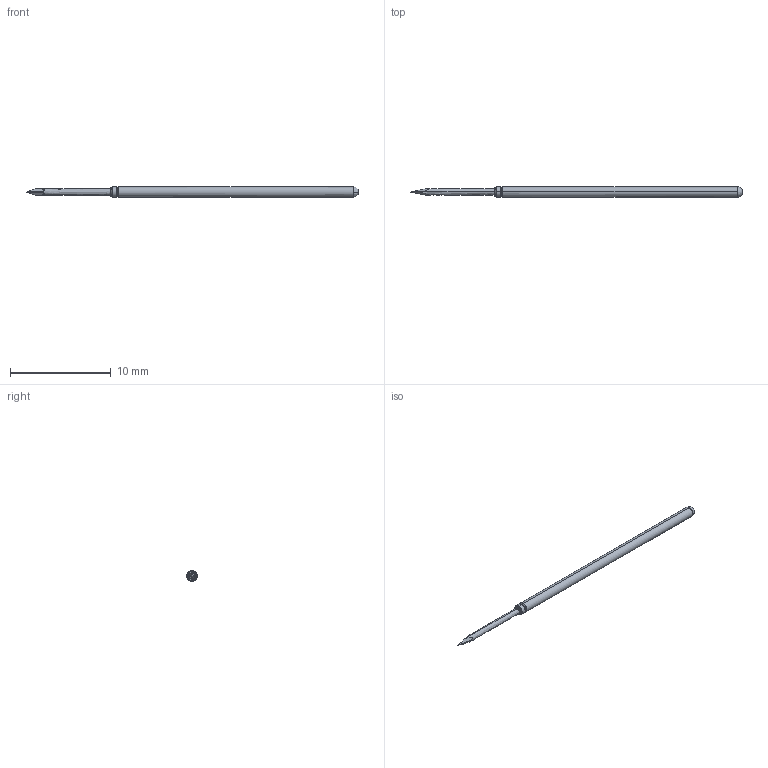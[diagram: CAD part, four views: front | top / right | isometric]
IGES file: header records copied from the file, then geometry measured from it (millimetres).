
Start section: SolidWorks IGES file using analytic representation for surfaces
Global section: file name: \\CODA-VM-SBS\RedirectedFolders\georged\My Documents\CODA FILES NEW\ATE TEST PROBES\LPA2 & ST-LPA2 SERIES\LF-LPA2K.IGS; native system: SolidWorks 2022; preprocessor: SolidWorks 2022; author: GeorgeD; date: 230605.103805; units: inch
Bounding box: 33.02 x 1.02 x 1.02 mm (x, y, z)
Surface area: 94.6 mm2 (no closed solid volume)
Topology: 0 solids, 0 shells, 23 faces, 167 edges, 167 vertices
Faces by surface type: bspline 23
